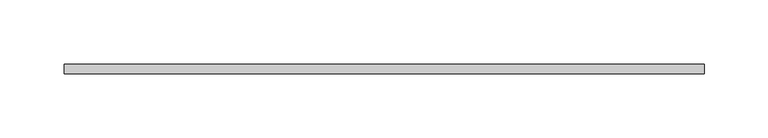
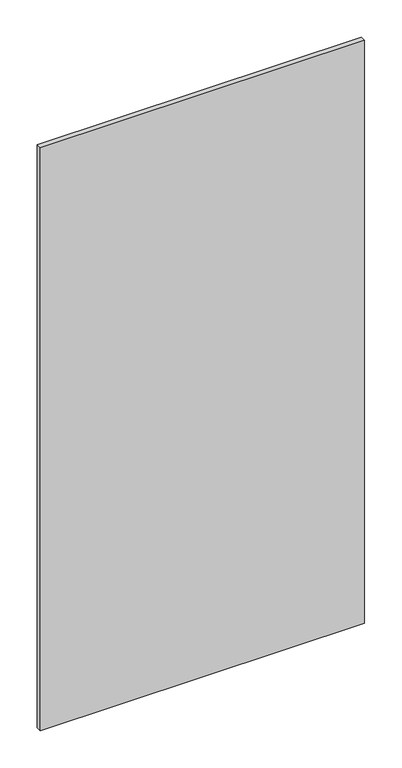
"""IFC4 building model written with IfcOpenShell, lengths in millimetres: proxy geometry, Mirror_Metlam_Polished : 500w x 8d x 950h (ML777)."""

from ifc_helpers import new_model, si_unit, frame, origin, place, context, project, spatial, polyline, outline, extrude, source, transform, mapped, element, save


def specialty_equipment_5f01a150(model_context):
    return source(origin(), model_context, "Body", "SweptSolid", [
        extrude(outline(polyline([(250.0, -7.5), (-250.0, -7.5), (-250.0, 0.0), (250.0, 0.0), (250.0, -7.5)])), frame((0.0, 0.0, 900.0), z_axis=(0.0, 0.0, 1.0), x_axis=(1.0, 0.0, 0.0)), (0.0, 0.0, 1.0), 950.0),
    ])


if __name__ == "__main__":
    model = new_model("IFC4")
    model_context = context("Model", 3, world=origin())
    ifc_project = project(units=[si_unit("LENGTHUNIT", "METRE", prefix="MILLI")], contexts=[model_context])
    site = spatial("IfcSite", under=ifc_project)
    building = spatial("IfcBuilding", under=site)
    placement = place(None, origin())
    specialty_equipment_shape = specialty_equipment_5f01a150(model_context)
    element("IfcBuildingElementProxy", 1, Name="Mirror_Metlam_Polished : 500w x 8d x 950h (ML777)", ObjectType="Mirror_Metlam_Polished : 500w x 8d x 950h (ML777)", at=placement, inside=building, context=model_context, shape_type="MappedRepresentation", body=[
        mapped(specialty_equipment_shape, transform((0.0, 0.0, 0.0), x_axis=(1.0, 0.0, 0.0), y_axis=(0.0, 1.0, 0.0), z_axis=(0.0, 0.0, 1.0))),
    ])
    save(model, "model.ifc")
